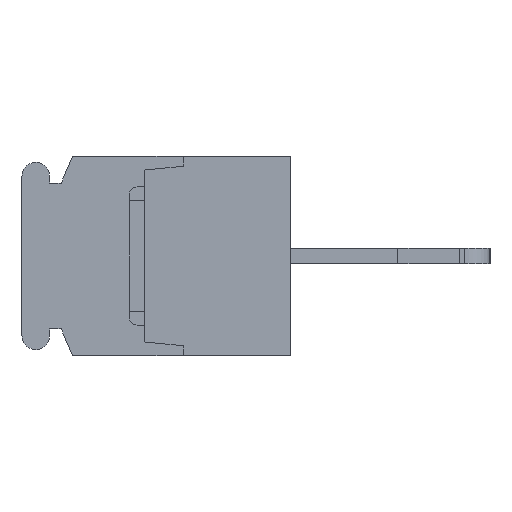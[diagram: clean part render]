
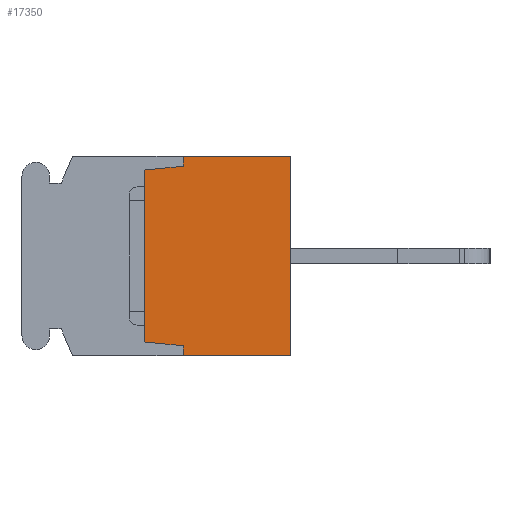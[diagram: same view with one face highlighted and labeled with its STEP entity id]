
A CAD part, left-side view. The second image highlights one B-rep face of the part: STEP entity #17350.
In plain terms, the highlighted planar face has unit normal (-1, 0, 0).
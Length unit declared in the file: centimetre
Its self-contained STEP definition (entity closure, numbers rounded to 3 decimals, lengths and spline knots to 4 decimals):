
#1224=VECTOR('',#19254,1.);
#1253=VECTOR('',#19284,1.);
#1311=VECTOR('',#19358,1.);
#2160=VECTOR('',#21446,1.);
#2161=VECTOR('',#21447,1.);
#2162=VECTOR('',#21448,1.);
#2163=VECTOR('',#21449,1.);
#2164=VECTOR('',#21450,1.);
#3162=LINE('',#24068,#1224);
#3191=LINE('',#24125,#1253);
#3249=LINE('',#24244,#1311);
#4098=LINE('',#26980,#2160);
#4099=LINE('',#26982,#2161);
#4100=LINE('',#26984,#2162);
#4101=LINE('',#26986,#2163);
#4102=LINE('',#26988,#2164);
#5104=VERTEX_POINT('',#24065);
#5105=VERTEX_POINT('',#24067);
#5133=VERTEX_POINT('',#24126);
#5181=VERTEX_POINT('',#24243);
#5976=VERTEX_POINT('',#26981);
#5977=VERTEX_POINT('',#26983);
#5978=VERTEX_POINT('',#26985);
#5979=VERTEX_POINT('',#26987);
#7386=EDGE_CURVE('',#5105,#5104,#3162,.T.);
#7415=EDGE_CURVE('',#5104,#5133,#3191,.T.);
#7475=EDGE_CURVE('',#5181,#5105,#3249,.T.);
#8706=EDGE_CURVE('',#5976,#5181,#4098,.T.);
#8707=EDGE_CURVE('',#5977,#5976,#4099,.T.);
#8708=EDGE_CURVE('',#5978,#5977,#4100,.T.);
#8709=EDGE_CURVE('',#5979,#5978,#4101,.T.);
#8710=EDGE_CURVE('',#5133,#5979,#4102,.T.);
#13380=ORIENTED_EDGE('',*,*,#7386,.F.);
#13381=ORIENTED_EDGE('',*,*,#7475,.F.);
#13382=ORIENTED_EDGE('',*,*,#8706,.F.);
#13383=ORIENTED_EDGE('',*,*,#8707,.F.);
#13384=ORIENTED_EDGE('',*,*,#8708,.F.);
#13385=ORIENTED_EDGE('',*,*,#8709,.F.);
#13386=ORIENTED_EDGE('',*,*,#8710,.F.);
#13387=ORIENTED_EDGE('',*,*,#7415,.F.);
#15276=EDGE_LOOP('',(#13380,#13381,#13382,#13383,#13384,#13385,#13386,#13387));
#16364=FACE_BOUND('',#15276,.T.);
#17350=ADVANCED_FACE('',(#16364),#18133,.F.);
#18133=PLANE('',#29568);
#19254=DIRECTION('',(0.,0.,-1.));
#19284=DIRECTION('',(0.,1.,0.));
#19358=DIRECTION('',(0.,-1.,0.));
#21445=DIRECTION('',(1.,0.,0.));
#21446=DIRECTION('',(0.,0.,1.));
#21447=DIRECTION('',(0.,-0.995,0.1));
#21448=DIRECTION('',(0.,0.,1.));
#21449=DIRECTION('',(0.,0.995,0.1));
#21450=DIRECTION('',(0.,0.,1.));
#24065=CARTESIAN_POINT('',(-1.84,0.,-0.65));
#24067=CARTESIAN_POINT('',(-1.84,0.,0.65));
#24068=CARTESIAN_POINT('',(-1.84,0.,0.65));
#24125=CARTESIAN_POINT('',(-1.84,0.,-0.65));
#24126=CARTESIAN_POINT('',(-1.84,0.7,-0.65));
#24243=CARTESIAN_POINT('',(-1.84,0.7,0.65));
#24244=CARTESIAN_POINT('',(-1.84,0.7,0.65));
#26979=CARTESIAN_POINT('',(-1.84,0.4626,0.));
#26980=CARTESIAN_POINT('',(-1.84,0.7,0.585));
#26981=CARTESIAN_POINT('',(-1.84,0.7,0.585));
#26982=CARTESIAN_POINT('',(-1.84,0.95,0.56));
#26983=CARTESIAN_POINT('',(-1.84,0.95,0.56));
#26984=CARTESIAN_POINT('',(-1.84,0.95,-0.56));
#26985=CARTESIAN_POINT('',(-1.84,0.95,-0.56));
#26986=CARTESIAN_POINT('',(-1.84,0.7,-0.585));
#26987=CARTESIAN_POINT('',(-1.84,0.7,-0.585));
#26988=CARTESIAN_POINT('',(-1.84,0.7,-0.65));
#29568=AXIS2_PLACEMENT_3D('',#26979,#21445,$);
